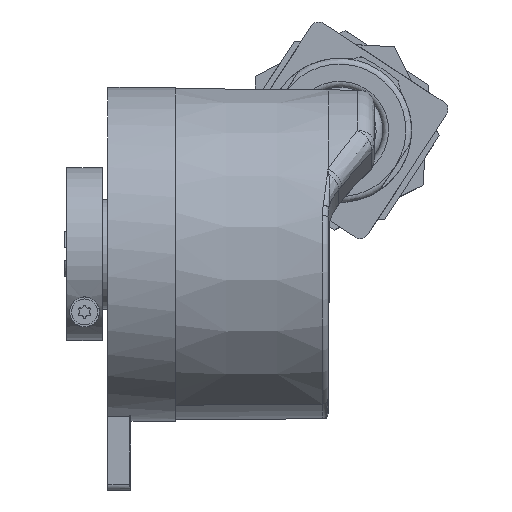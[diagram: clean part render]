
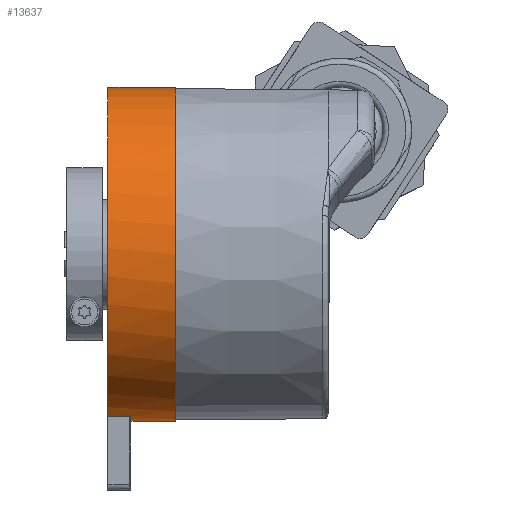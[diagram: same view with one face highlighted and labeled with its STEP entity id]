
A CAD part, front view. The second image highlights one B-rep face of the part: STEP entity #13637.
In plain terms, the highlighted cylindrical face has radius 29 mm (diameter 58 mm), a partial arc.
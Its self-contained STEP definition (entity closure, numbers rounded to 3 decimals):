
#614 = LINE ( 'NONE', #19785, #12596 ) ;
#1347 = DIRECTION ( 'NONE',  ( 1., 0., 0. ) ) ;
#3418 = AXIS2_PLACEMENT_3D ( 'NONE', #19563, #53480, #5106 ) ;
#5106 = DIRECTION ( 'NONE',  ( 0., 0., -1. ) ) ;
#7114 = ORIENTED_EDGE ( 'NONE', *, *, #31704, .T. ) ;
#7928 = VERTEX_POINT ( 'NONE', #52702 ) ;
#8709 = CARTESIAN_POINT ( 'NONE',  ( 0.378, 25.423, -29. ) ) ;
#11018 = CARTESIAN_POINT ( 'NONE',  ( 8.068, 25.423, -29. ) ) ;
#12596 = VECTOR ( 'NONE', #38937, 1000. ) ;
#13637 = ADVANCED_FACE ( 'NONE', ( #60908 ), #61841, .T. ) ;
#13897 = LINE ( 'NONE', #32129, #44811 ) ;
#14401 = VECTOR ( 'NONE', #34152, 1000. ) ;
#14490 = EDGE_CURVE ( 'NONE', #31102, #52792, #13897, .T. ) ;
#17108 = VERTEX_POINT ( 'NONE', #39035 ) ;
#19563 = CARTESIAN_POINT ( 'NONE',  ( -3.622, 25.423, 0. ) ) ;
#19785 = CARTESIAN_POINT ( 'NONE',  ( 8.068, 18.423, -28.142 ) ) ;
#20711 = DIRECTION ( 'NONE',  ( 1., 0., 0. ) ) ;
#21631 = CARTESIAN_POINT ( 'NONE',  ( 8.068, 25.423, 29. ) ) ;
#21964 = CARTESIAN_POINT ( 'NONE',  ( 0.378, 25.423, 0. ) ) ;
#22906 = AXIS2_PLACEMENT_3D ( 'NONE', #30258, #1347, #53516 ) ;
#25450 = AXIS2_PLACEMENT_3D ( 'NONE', #36996, #56182, #32282 ) ;
#27413 = DIRECTION ( 'NONE',  ( 1., 0., 0. ) ) ;
#30258 = CARTESIAN_POINT ( 'NONE',  ( 8.068, 25.423, 0. ) ) ;
#30362 = CARTESIAN_POINT ( 'NONE',  ( 8.068, 25.423, -29. ) ) ;
#31102 = VERTEX_POINT ( 'NONE', #38409 ) ;
#31704 = EDGE_CURVE ( 'NONE', #17108, #50402, #35740, .T. ) ;
#32129 = CARTESIAN_POINT ( 'NONE',  ( 8.068, 25.423, 29. ) ) ;
#32282 = DIRECTION ( 'NONE',  ( 0., 0., -1. ) ) ;
#34152 = DIRECTION ( 'NONE',  ( 1., 0., 0. ) ) ;
#35740 = CIRCLE ( 'NONE', #60880, 29. ) ;
#36996 = CARTESIAN_POINT ( 'NONE',  ( 8.068, 25.423, 0. ) ) ;
#38409 = CARTESIAN_POINT ( 'NONE',  ( -3.622, 25.423, 29. ) ) ;
#38937 = DIRECTION ( 'NONE',  ( -1., 0., 0. ) ) ;
#39035 = CARTESIAN_POINT ( 'NONE',  ( 0.378, 18.423, -28.142 ) ) ;
#39090 = CIRCLE ( 'NONE', #22906, 29. ) ;
#40477 = ORIENTED_EDGE ( 'NONE', *, *, #42903, .T. ) ;
#40479 = ORIENTED_EDGE ( 'NONE', *, *, #14490, .F. ) ;
#42028 = EDGE_CURVE ( 'NONE', #50402, #44079, #44486, .T. ) ;
#42549 = CIRCLE ( 'NONE', #3418, 29. ) ;
#42903 = EDGE_CURVE ( 'NONE', #31102, #7928, #42549, .T. ) ;
#44079 = VERTEX_POINT ( 'NONE', #11018 ) ;
#44486 = LINE ( 'NONE', #30362, #14401 ) ;
#44811 = VECTOR ( 'NONE', #27413, 1000. ) ;
#45345 = ORIENTED_EDGE ( 'NONE', *, *, #58618, .F. ) ;
#46401 = EDGE_CURVE ( 'NONE', #17108, #7928, #614, .T. ) ;
#50402 = VERTEX_POINT ( 'NONE', #8709 ) ;
#51806 = ORIENTED_EDGE ( 'NONE', *, *, #42028, .T. ) ;
#52702 = CARTESIAN_POINT ( 'NONE',  ( -3.622, 18.423, -28.142 ) ) ;
#52792 = VERTEX_POINT ( 'NONE', #21631 ) ;
#52911 = ORIENTED_EDGE ( 'NONE', *, *, #46401, .F. ) ;
#53480 = DIRECTION ( 'NONE',  ( 1., 0., 0. ) ) ;
#53516 = DIRECTION ( 'NONE',  ( 0., 0., -1. ) ) ;
#54323 = DIRECTION ( 'NONE',  ( 0., 0., 1. ) ) ;
#56182 = DIRECTION ( 'NONE',  ( 1., 0., 0. ) ) ;
#58618 = EDGE_CURVE ( 'NONE', #52792, #44079, #39090, .T. ) ;
#60880 = AXIS2_PLACEMENT_3D ( 'NONE', #21964, #20711, #54323 ) ;
#60908 = FACE_OUTER_BOUND ( 'NONE', #61190, .T. ) ;
#61190 = EDGE_LOOP ( 'NONE', ( #40479, #40477, #52911, #7114, #51806, #45345 ) ) ;
#61841 = CYLINDRICAL_SURFACE ( 'NONE', #25450, 29. ) ;
